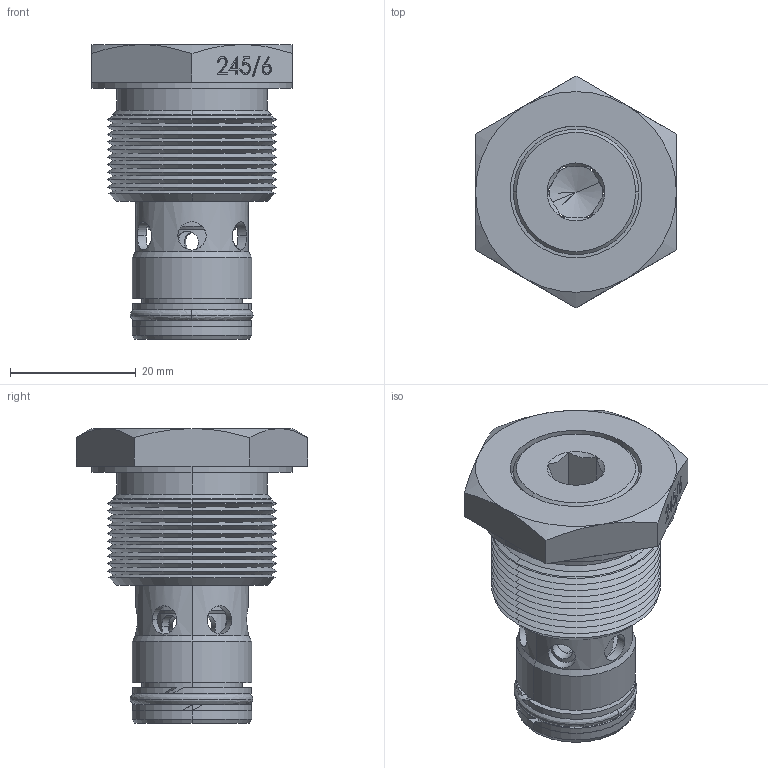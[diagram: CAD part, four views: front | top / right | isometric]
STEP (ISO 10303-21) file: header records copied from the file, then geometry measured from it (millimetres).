
FILE_DESCRIPTION (( 'STEP AP214' ), '1' );
FILE_NAME ('245-6-38.STEP', '2015-05-15T15:11:31', ( '' ), ( '' ), 'SwSTEP 2.0', 'SolidWorks 2014', '' );
FILE_SCHEMA (( 'AUTOMOTIVE_DESIGN' ));
Length unit declared in the file: millimetre
Products named in the file (1): 245-6-38
Bounding box: 32 x 36.95 x 47 mm (x, y, z)
Surface area: 8385.7 mm2 (no closed solid volume)
Topology: 0 solids, 8 shells, 285 faces, 734 edges, 463 vertices
Faces by surface type: plane 97, cone 74, bspline 57, cylinder 57
Entity records: 15948 total; most frequent: CARTESIAN_POINT 6366, ORIENTED_EDGE 1370, DIRECTION 1159, EDGE_CURVE 732, VERTEX_POINT 463, AXIS2_PLACEMENT_3D 390, LINE 379, VECTOR 379
